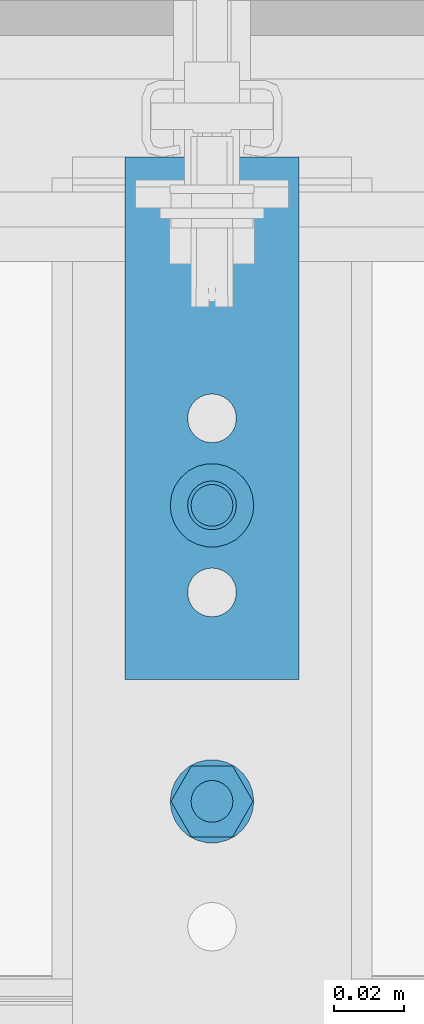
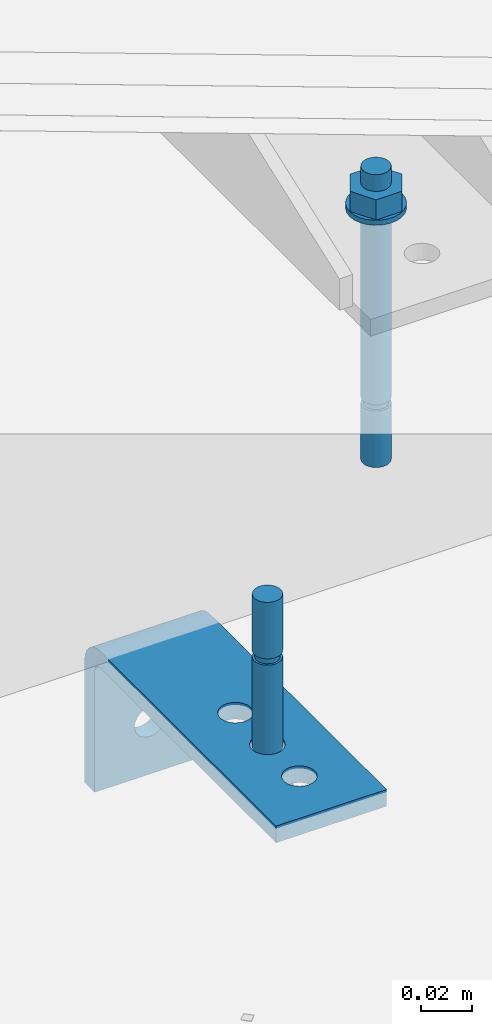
# One storey, part 3 of 8: 3 assemblies, 4 openings.
"""IFC2X3 building model written with IfcOpenShell, lengths in metres."""

from ifc_helpers import new_model, entity, si_unit, converted_unit, derived_unit, direction, frame, frame_2d, origin, place, context, subcontext, project, spatial, polyline, circle_curve, parameter, trimmed, segment, composite_curve, circle, hollow_circle, outline, extrude, source, transform, mapped, material, type_object, type_shapes, element, save


model = new_model("IFC2X3")

# Units and contexts
model_context = context("Model", 3, precision=1e-05, world=origin(), true_north=direction((6.123031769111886e-17, 1.0)))
body_context = subcontext(model_context, "Body", "Model", "MODEL_VIEW")
ifc_project = project(units=[si_unit("LENGTHUNIT", "METRE"), si_unit("AREAUNIT", "SQUARE_METRE"), converted_unit("PLANEANGLEUNIT", "DEGREE", entity("IfcPlaneAngleMeasure", 0.017453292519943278), si_unit("PLANEANGLEUNIT", "RADIAN"), dimensions=[0, 0, 0, 0, 0, 0, 0]), si_unit("VOLUMEUNIT", "CUBIC_METRE"), derived_unit("THERMALTRANSMITTANCEUNIT", [(si_unit("MASSUNIT", "GRAM", prefix="KILO"), 1), (si_unit("THERMODYNAMICTEMPERATUREUNIT", "KELVIN"), -1), (si_unit("TIMEUNIT", "SECOND"), -3)]), derived_unit("USERDEFINED", [(si_unit("MASSUNIT", "GRAM", prefix="KILO"), 1), (si_unit("THERMODYNAMICTEMPERATUREUNIT", "KELVIN"), -1), (si_unit("TIMEUNIT", "SECOND"), -2)]), derived_unit("THERMALRESISTANCEUNIT", [(si_unit("MASSUNIT", "GRAM", prefix="KILO"), -1), (si_unit("TIMEUNIT", "SECOND"), 3), (si_unit("THERMODYNAMICTEMPERATUREUNIT", "KELVIN"), 1)]), si_unit("PRESSUREUNIT", "PASCAL"), derived_unit("MASSDENSITYUNIT", [(si_unit("MASSUNIT", "GRAM", prefix="KILO"), 1), (si_unit("LENGTHUNIT", "METRE"), -3)]), derived_unit("VAPORPERMEABILITYUNIT", [(si_unit("LENGTHUNIT", "METRE"), -1), (si_unit("TIMEUNIT", "SECOND"), 1)]), derived_unit("USERDEFINED", [(si_unit("MASSUNIT", "GRAM", prefix="KILO"), 1), (si_unit("TIMEUNIT", "SECOND"), -3), (si_unit("LENGTHUNIT", "METRE"), 3), (si_unit("ELECTRICCURRENTUNIT", "AMPERE"), -2)])], contexts=[model_context])

# Site, building, storey
site_placement = place(None, origin())
site = spatial("IfcSite", under=ifc_project, at=site_placement, Name="Default", CompositionType="ELEMENT")
building_placement = place(site_placement, origin())
building = spatial("IfcBuilding", under=site, at=building_placement, CompositionType="ELEMENT")
storey_placement = place(building_placement, origin())
storey = spatial("IfcBuildingStorey", under=building, at=storey_placement, Name="L0", CompositionType="ELEMENT", Elevation=0.0)

# Assemblies
ifc_material = material(Name="REC_Acero, S 275JR (Zincado)")
type_product_1 = type_object("IfcTypeProduct", Name="REC-AEM12-140:AEM12-140", material=ifc_material)
shared_shape_1 = source(origin(), body_context, "Body", "SweptSolid", [
    extrude(outline(polyline([(-0.005890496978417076, -0.010202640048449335), (0.005890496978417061, -0.010202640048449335), (0.01178099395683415, 0.0), (0.005890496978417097, 0.010202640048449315), (-0.0058904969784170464, 0.010202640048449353), (-0.011780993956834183, 0.0), (-0.005890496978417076, -0.010202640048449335)]), holes=[composite_curve([segment(trimmed(circle_curve(frame_2d((6.043164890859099e-09, 0.0), x_axis=(1.0, 0.0)), 0.005999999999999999), [parameter(3.053332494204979e-13)], [parameter(180.0)], True, "PARAMETER"), False, "CONTINUOUS"), segment(trimmed(circle_curve(frame_2d((6.043164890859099e-09, 0.0), x_axis=(1.0, 0.0)), 0.005999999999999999), [parameter(179.99999999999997)], [parameter(0.0)], True, "PARAMETER"), False, "CONTINUOUS")], self_intersect=False)]), frame((-6.043164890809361e-09, 0.0, 0.002399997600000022)), (0.0, 0.0, 1.0), 0.009600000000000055),
    extrude(hollow_circle(Radius=0.011999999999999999, WallThickness=0.004999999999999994, at=frame_2d((1.062573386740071e-19, -1.9386534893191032e-17), x_axis=(1.0, 0.0))), origin(), (0.0, 0.0, 1.0), 0.002399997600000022),
    extrude(circle(Radius=0.006, at=frame_2d((1.3218592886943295e-19, -9.69326744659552e-18), x_axis=(1.0, 0.0))), frame((0.0, 0.0, -0.09)), (0.0, 0.0, 1.0), 0.11),
    extrude(circle(Radius=0.006, at=frame_2d((1.3218592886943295e-19, -9.69326744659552e-18), x_axis=(1.0, 0.0))), frame((0.0, 0.0, -0.12)), (0.0, 0.0, 1.0), 0.026999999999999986),
    extrude(circle(Radius=0.005, at=frame_2d((1.3218592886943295e-19, -8.077722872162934e-18), x_axis=(1.0, 0.0))), frame((0.0, 0.0, -0.09300000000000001)), (0.0, 0.0, 1.0), 0.0030000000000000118),
])
type_shapes(type_product_1, [shared_shape_1])
assembly_1_placement = place(storey_placement, frame((7.387720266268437, 15.749530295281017, 0.00799999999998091)))
element("IfcElementAssembly", 1, at=assembly_1_placement, inside=storey, type_object=type_product_1, material=ifc_material, Name="REC-AEM12-140:AEM12-140", ObjectType="REC-AEM12-140:AEM12-140", AssemblyPlace="NOTDEFINED", PredefinedType="NOTDEFINED", context=body_context, shape_type="MappedRepresentation", body=[
    mapped(shared_shape_1, transform((0.0, 0.0, 0.0), scale=1.0)),
])
type_product_2 = type_object("IfcTypeProduct", Name="REC-AEM12-100:AEM12-100", material=ifc_material)
shared_shape_2 = source(origin(), body_context, "Body", "SweptSolid", [
    extrude(outline(polyline([(-0.005890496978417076, -0.010202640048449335), (0.005890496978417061, -0.010202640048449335), (0.01178099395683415, 0.0), (0.005890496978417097, 0.010202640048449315), (-0.0058904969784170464, 0.010202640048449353), (-0.011780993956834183, 0.0), (-0.005890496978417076, -0.010202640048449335)]), holes=[composite_curve([segment(trimmed(circle_curve(frame_2d((6.043164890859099e-09, 0.0), x_axis=(1.0, 0.0)), 0.005999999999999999), [parameter(3.053332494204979e-13)], [parameter(180.0)], True, "PARAMETER"), False, "CONTINUOUS"), segment(trimmed(circle_curve(frame_2d((6.043164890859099e-09, 0.0), x_axis=(1.0, 0.0)), 0.005999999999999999), [parameter(179.99999999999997)], [parameter(0.0)], True, "PARAMETER"), False, "CONTINUOUS")], self_intersect=False)]), frame((-6.043164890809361e-09, 0.0, 0.002399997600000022)), (0.0, 0.0, 1.0), 0.009600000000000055),
    extrude(hollow_circle(Radius=0.011999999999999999, WallThickness=0.004999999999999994, at=frame_2d((1.062573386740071e-19, -1.9386534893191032e-17), x_axis=(1.0, 0.0))), origin(), (0.0, 0.0, 1.0), 0.002399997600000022),
    extrude(circle(Radius=0.006, at=frame_2d((1.3218592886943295e-19, -9.69326744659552e-18), x_axis=(1.0, 0.0))), frame((0.0, 0.0, -0.05)), (0.0, 0.0, 1.0), 0.07),
    extrude(circle(Radius=0.006, at=frame_2d((1.3218592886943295e-19, -9.69326744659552e-18), x_axis=(1.0, 0.0))), frame((0.0, 0.0, -0.08)), (0.0, 0.0, 1.0), 0.027000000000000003),
    extrude(circle(Radius=0.005, at=frame_2d((1.3218592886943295e-19, -8.077722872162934e-18), x_axis=(1.0, 0.0))), frame((0.0, 0.0, -0.053)), (0.0, 0.0, 1.0), 0.002999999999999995),
])
type_shapes(type_product_2, [shared_shape_2])
assembly_2_placement = place(storey_placement, frame((7.387720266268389, 15.834530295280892, -0.307999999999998), z_axis=(0.0, 0.0, -1.0), x_axis=(-1.0, 0.0, 0.0)))
element("IfcElementAssembly", 2, at=assembly_2_placement, inside=storey, type_object=type_product_2, material=ifc_material, Name="REC-AEM12-100:AEM12-100", ObjectType="REC-AEM12-100:AEM12-100", AssemblyPlace="NOTDEFINED", PredefinedType="NOTDEFINED", context=body_context, shape_type="MappedRepresentation", body=[
    mapped(shared_shape_2, transform((0.0, 0.0, 0.0), scale=1.0)),
])

# Assembly, openings
type_product_3 = type_object("IfcTypeProduct", Name="REC-PAA150708T14:PAA150708T14", material=ifc_material)
shared_shape_3 = source(origin(), body_context, "Body", "SweptSolid", [
    extrude(outline(polyline([(-0.0007712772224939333, -0.01619336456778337), (-0.057656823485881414, -0.0048781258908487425), (-0.05921754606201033, -0.012724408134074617), (-0.0023319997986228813, -0.02403964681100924), (0.0005526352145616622, -0.02425790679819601), (0.003405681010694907, -0.023779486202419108), (0.0060613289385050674, -0.02263218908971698), (0.008365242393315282, -0.020882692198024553), (0.010183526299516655, -0.018632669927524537), (0.011565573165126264, -0.015681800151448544), (0.03870097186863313, 0.12073706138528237), (0.030854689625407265, 0.12229778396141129), (0.003932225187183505, -0.013050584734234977), (0.003334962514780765, -0.01449250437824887), (0.002231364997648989, -0.015596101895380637), (0.0007894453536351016, -0.016193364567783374), (-0.0007712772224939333, -0.01619336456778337)])), frame((-0.024999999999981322, 0.014402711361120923, 0.024032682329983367), z_axis=(-1.0, 0.0, 0.0), x_axis=(0.0, -0.9807852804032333, 0.19509032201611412)), (0.0, 0.0, -1.0), 0.04999999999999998),
])
type_shapes(type_product_3, [shared_shape_3])
assembly_3_placement = place(storey_placement, frame((7.387720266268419, 15.934530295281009, -0.2999999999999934), z_axis=(0.0, -1.0, 0.0), x_axis=(-1.0, 0.0, 0.0)))
assembly_3 = element("IfcElementAssembly", 3, at=assembly_3_placement, inside=storey, type_object=type_product_3, material=ifc_material, Name="REC-PAA150708T14:PAA150708T14", ObjectType="REC-PAA150708T14:PAA150708T14", AssemblyPlace="NOTDEFINED", PredefinedType="NOTDEFINED", context=body_context, shape_type="MappedRepresentation", body=[
    mapped(shared_shape_3, transform((0.0, 0.0, 0.0), scale=1.0)),
])
opening_1_placement = place(storey_placement, frame((7.387720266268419, 15.934530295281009, -0.2999999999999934)))
element("IfcOpeningElement", 4, at=opening_1_placement, cuts=assembly_3, Name="REC-PAA150708T14:PAA150708T14:1", ObjectType="Opening", context=body_context, shape_type="SweptSolid", body=[
    extrude(circle(Radius=0.007, at=frame_2d((0.0, 2.133174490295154e-17), x_axis=(1.0, 0.0))), frame((0.0, 0.0, -0.04500000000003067), z_axis=(0.0, -1.0, 0.0), x_axis=(0.0, 0.0, 1.0)), (0.0, 0.0, 1.0), 0.008000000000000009),
])
opening_2_placement = place(storey_placement, frame((7.387720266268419, 15.934530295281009, -0.2999999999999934)))
element("IfcOpeningElement", 5, at=opening_2_placement, cuts=assembly_3, Name="REC-PAA150708T14:PAA150708T14:2", ObjectType="Opening", context=body_context, shape_type="SweptSolid", body=[
    extrude(circle(Radius=0.007, at=frame_2d((-1.1948495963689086e-31, 6.726405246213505e-17), x_axis=(1.0, 0.0))), frame((0.0, -0.12499999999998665, -0.008000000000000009), z_axis=(0.0, 0.0, 1.0), x_axis=(0.0, 1.0, 0.0)), (0.0, 0.0, 1.0), 0.008000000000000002),
])
opening_3_placement = place(storey_placement, frame((7.387720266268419, 15.934530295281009, -0.2999999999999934)))
element("IfcOpeningElement", 6, at=opening_3_placement, cuts=assembly_3, Name="REC-PAA150708T14:PAA150708T14:3", ObjectType="Opening", context=body_context, shape_type="SweptSolid", body=[
    extrude(circle(Radius=0.007, at=frame_2d((-1.1948495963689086e-31, 6.726405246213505e-17), x_axis=(1.0, 0.0))), frame((0.0, -0.09999999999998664, -0.00800000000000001), z_axis=(0.0, 0.0, 1.0), x_axis=(0.0, 1.0, 0.0)), (0.0, 0.0, 1.0), 0.008000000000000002),
])
opening_4_placement = place(storey_placement, frame((7.387720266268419, 15.934530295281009, -0.2999999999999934)))
element("IfcOpeningElement", 7, at=opening_4_placement, cuts=assembly_3, Name="REC-PAA150708T14:PAA150708T14:4", ObjectType="Opening", context=body_context, shape_type="SweptSolid", body=[
    extrude(circle(Radius=0.007, at=frame_2d((8.459899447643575e-18, 6.726405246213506e-17), x_axis=(1.0, 0.0))), frame((0.0, -0.07499999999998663, -0.00800000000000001), z_axis=(0.0, 0.0, 1.0), x_axis=(0.0, 1.0, 0.0)), (0.0, 0.0, 1.0), 0.008000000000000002),
])

save(model, "model.ifc")
